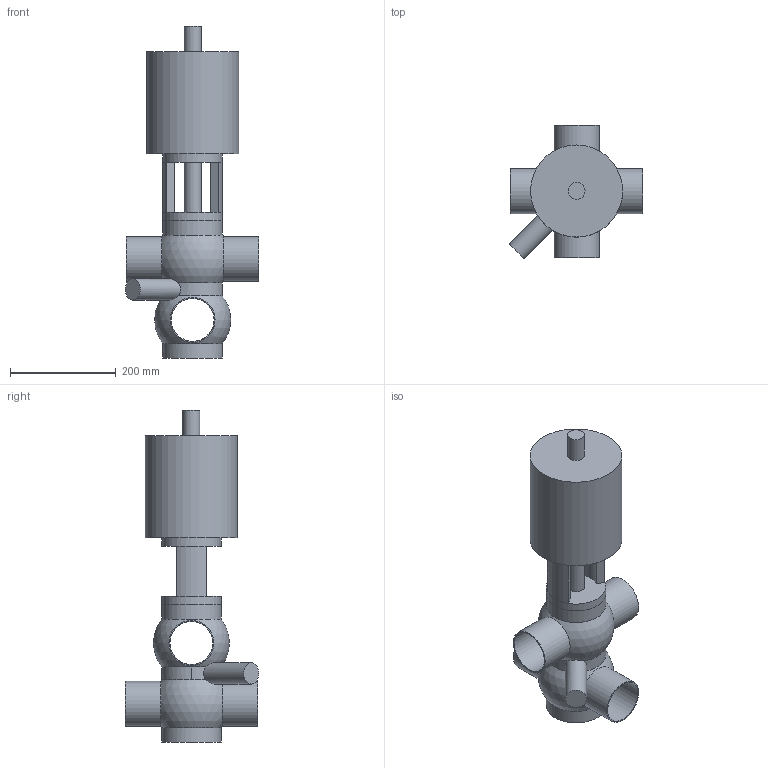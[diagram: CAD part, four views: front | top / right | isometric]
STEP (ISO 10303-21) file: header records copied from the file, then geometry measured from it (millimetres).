
FILE_DESCRIPTION(('FreeCAD Model'),'2;1');
FILE_NAME( '/home/martin/Documents/proyect/valves/stp/valve_TT_DN-80.step', '2018-01-12T21:41:58',('Author'),(''), 'Open CASCADE STEP processor 6.8','FreeCAD','Unknown');
FILE_SCHEMA(('AUTOMOTIVE_DESIGN_CC2 { 1 2 10303 214 -1 1 5 4 }'));
Length unit declared in the file: millimetre
Products named in the file (3): ASSEMBLY; valve_TT_DN-80-body; valve_TT_DN-80-head
Assembly tree (2 placements, depth 2):
  ASSEMBLY
    valve_TT_DN-80-body
    valve_TT_DN-80-head
Bounding box: 252.28 x 252.28 x 627 mm (x, y, z)
Volume: 6638038.3 mm3; surface area: 552921.6 mm2
Topology: 2 solids, 2 shells, 46 faces, 109 edges, 70 vertices
Faces by surface type: cylinder 24, plane 18, sphere 4
Full cylindrical faces by diameter (mm): 32 x2, 40 x1, 81 x5, 85 x4, 112 x4, 174 x1
Entity records: 5638 total; most frequent: CARTESIAN_POINT 3219, DIRECTION 417, ORIENTED_EDGE 214, PCURVE 214, DEFINITIONAL_REPRESENTATION 214, LINE 172, VECTOR 172, AXIS2_PLACEMENT_3D 107
